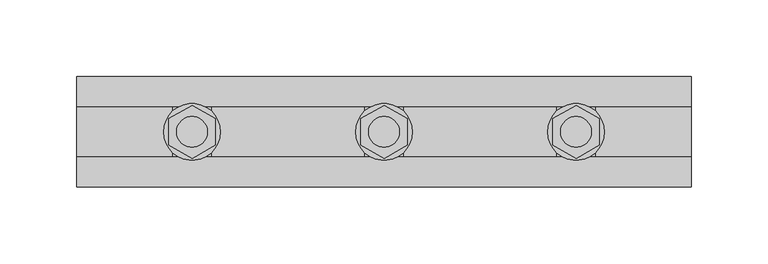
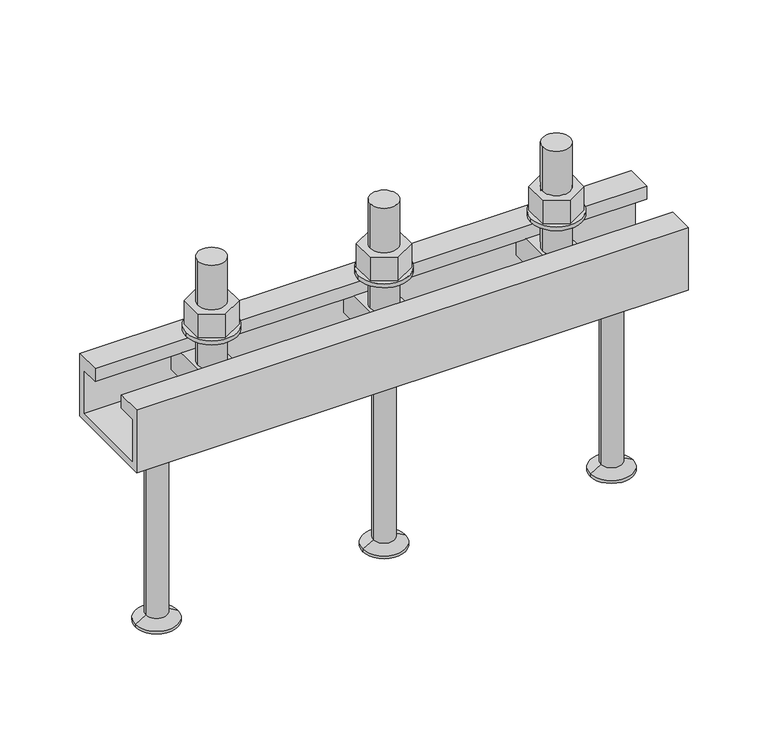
"""IFC4 building model written with IfcOpenShell, lengths in millimetres: fastener geometry, JTA-W JORDAHL® AnchorChannels : JTA-W L=400 mm."""

import ifcopenshell
import ifcopenshell.guid

model = None  # the IFC model being written
_history = None  # IfcOwnerHistory: only IFC2X3 demands one
_inside = {}  # id of a spatial element -> (the spatial element, [elements in it])
_under = {}  # id of a project, library or spatial element -> (it, [spatial elements below it])
_declared = {}  # id of a project -> (the project, [libraries it declares])
_typed = {}  # id of a type object -> (the type object, [elements of that type])
_made_of = {}  # id of a material, layer set ... -> (it, [elements and type objects made of it])


def new_model(schema):
    """Start an empty IFC model of exactly this schema.

    Asked for "IFC4X3", IfcOpenShell would pick the latest addendum, in which some entities
    have other attributes; the version numbers below select the first issue.
    IFC2X3 requires an IfcOwnerHistory on every rooted entity: one is made here for all.
    """
    global model, _history
    if schema == "IFC4X3":
        model = ifcopenshell.file(schema_version=(4, 3, 0, 0))
    else:
        model = ifcopenshell.file(schema=schema)
    _inside.clear()
    _under.clear()
    _declared.clear()
    _typed.clear()
    _made_of.clear()
    _history = None
    if model.schema == "IFC2X3":
        org = make("IfcOrganization", Name="unknown")
        user = make(
            "IfcPersonAndOrganization",
            ThePerson=make("IfcPerson", FamilyName="unknown"),
            TheOrganization=org,
        )
        app = make(
            "IfcApplication",
            ApplicationDeveloper=org,
            Version="unknown",
            ApplicationFullName="unknown",
            ApplicationIdentifier="unknown",
        )
        _history = make(
            "IfcOwnerHistory",
            OwningUser=user,
            OwningApplication=app,
            ChangeAction="ADDED",
            CreationDate=0,
        )
    return model


def make(cls, **values):
    """One entity of the class cls with the attributes given. An attribute that is None is left unset."""
    return model.create_entity(
        cls, **{name: value for name, value in values.items() if value is not None}
    )


def rooted(cls, **values):
    """An entity with a GlobalId (a new one), such as an element, a storey or a relation."""
    return make(cls, GlobalId=ifcopenshell.guid.new(), OwnerHistory=_history, **values)


def si_unit(unit_type, name, prefix=None):
    """IfcSIUnit, for example si_unit("LENGTHUNIT", "METRE", prefix="MILLI")."""
    return make("IfcSIUnit", UnitType=unit_type, Prefix=prefix, Name=name)


def assignment(units):
    """IfcUnitAssignment: the units of a project."""
    return None if units is None else make("IfcUnitAssignment", Units=units)


def point(xyz):
    """IfcCartesianPoint."""
    return None if xyz is None else make("IfcCartesianPoint", Coordinates=xyz)


def direction(xyz):
    """IfcDirection."""
    return None if xyz is None else make("IfcDirection", DirectionRatios=xyz)


def frame(location, z_axis=None, x_axis=None):
    """IfcAxis2Placement3D, a coordinate frame: its origin and axes. An axis left out is left unset."""
    return make(
        "IfcAxis2Placement3D",
        Location=point(location),
        Axis=direction(z_axis),
        RefDirection=direction(x_axis),
    )


def frame_2d(location, x_axis=None):
    """IfcAxis2Placement2D, a coordinate frame in the plane: its origin and x axis."""
    return make(
        "IfcAxis2Placement2D", Location=point(location), RefDirection=direction(x_axis)
    )


def origin():
    """The frame at (0, 0, 0) with its axes left unset."""
    return frame((0.0, 0.0, 0.0))


def place(relative_to, where):
    """IfcLocalPlacement: puts the frame where relative to a parent placement (None: the world)."""
    return make(
        "IfcLocalPlacement", PlacementRelTo=relative_to, RelativePlacement=where
    )


def context(
    kind, dimensions, precision=None, world=None, true_north=None, identifier=None
):
    """IfcGeometricRepresentationContext, for example the 3D "Model" context."""
    return make(
        "IfcGeometricRepresentationContext",
        ContextIdentifier=identifier,
        ContextType=kind,
        CoordinateSpaceDimension=dimensions,
        Precision=precision,
        WorldCoordinateSystem=world,
        TrueNorth=true_north,
    )


def project(units=None, contexts=None):
    """IfcProject with its units and contexts."""
    return rooted(
        "IfcProject",
        Name="project",
        RepresentationContexts=contexts,
        UnitsInContext=assignment(units),
    )


def spatial(cls, under=None, at=None, **own):
    """A site, building, storey or space (cls), placed at a placement, below another one or the project."""
    s = rooted(cls, ObjectPlacement=at, **own)
    if under is not None:
        _under.setdefault(under.id(), (under, []))[1].append(s)
    return s


def polyline(points):
    """IfcPolyline through the points."""
    return make("IfcPolyline", Points=[point(p) for p in points])


def circle_curve(where, radius):
    """IfcCircle in the frame where."""
    return make("IfcCircle", Position=where, Radius=radius)


def trimmed(basis, trim1, trim2, sense, master):
    """IfcTrimmedCurve: the piece of a basis curve between two trims."""
    return make(
        "IfcTrimmedCurve",
        BasisCurve=basis,
        Trim1=trim1,
        Trim2=trim2,
        SenseAgreement=sense,
        MasterRepresentation=master,
    )


def segment(curve, same_sense, transition):
    """IfcCompositeCurveSegment."""
    return make(
        "IfcCompositeCurveSegment",
        Transition=transition,
        SameSense=same_sense,
        ParentCurve=curve,
    )


def composite_curve(segments, self_intersect=None):
    """IfcCompositeCurve: segments joined end to end."""
    return make("IfcCompositeCurve", Segments=segments, SelfIntersect=self_intersect)


def outline(outer, holes=None, kind="AREA"):
    """IfcArbitraryClosedProfileDef: a profile drawn as a closed curve; with holes, ...WithVoids."""
    if holes is None:
        return make("IfcArbitraryClosedProfileDef", ProfileType=kind, OuterCurve=outer)
    return make(
        "IfcArbitraryProfileDefWithVoids",
        ProfileType=kind,
        OuterCurve=outer,
        InnerCurves=holes,
    )


def extrude(swept, where, along, depth):
    """IfcExtrudedAreaSolid: the profile swept, set in the frame where, extruded along a direction by depth."""
    return make(
        "IfcExtrudedAreaSolid",
        SweptArea=swept,
        Position=where,
        ExtrudedDirection=direction(along),
        Depth=depth,
    )


def shape(context_of_items, identifier, shape_type, items):
    """IfcShapeRepresentation: the items that make up one representation, for example the "Body"."""
    return make(
        "IfcShapeRepresentation",
        ContextOfItems=context_of_items,
        RepresentationIdentifier=identifier,
        RepresentationType=shape_type,
        Items=items,
    )


def source(mapping_origin, context_of_items, identifier, shape_type, items):
    """IfcRepresentationMap: a shape defined once, which mapped items show again and again."""
    return make(
        "IfcRepresentationMap",
        MappingOrigin=mapping_origin,
        MappedRepresentation=shape(context_of_items, identifier, shape_type, items),
    )


def transform(
    local_origin,
    x_axis=None,
    y_axis=None,
    z_axis=None,
    scale=None,
    scale2=None,
    scale3=None,
    uniform=True,
):
    """IfcCartesianTransformationOperator3D, or its non-uniform kind. x_axis, y_axis, z_axis: its Axis1, 2, 3."""
    if uniform:
        return make(
            "IfcCartesianTransformationOperator3D",
            Axis1=direction(x_axis),
            Axis2=direction(y_axis),
            LocalOrigin=point(local_origin),
            Scale=scale,
            Axis3=direction(z_axis),
        )
    return make(
        "IfcCartesianTransformationOperator3DnonUniform",
        Axis1=direction(x_axis),
        Axis2=direction(y_axis),
        LocalOrigin=point(local_origin),
        Scale=scale,
        Axis3=direction(z_axis),
        Scale2=scale2,
        Scale3=scale3,
    )


def mapped(mapping_source, mapping_target):
    """IfcMappedItem: shows the shape of a source again, moved by a transform."""
    return make(
        "IfcMappedItem", MappingSource=mapping_source, MappingTarget=mapping_target
    )


def made_of(thing, what):
    """Note that an element or type object is made of a material, layer set ...; save() writes the relation."""
    if what is not None:
        _made_of.setdefault(what.id(), (what, []))[1].append(thing)
    return thing


def element(
    cls,
    number,
    at=None,
    inside=None,
    cuts=None,
    type_object=None,
    material=None,
    context=None,
    identifier="Body",
    shape_type=None,
    held_by="IfcProductDefinitionShape",
    body=None,
    shapes=None,
    **own,
):
    """One element of the class cls, such as IfcWall. Its Tag is "e" and its number.

    at: its placement. inside: the storey or other place that contains it. cuts: it is an
    opening in that element (IfcRelVoidsElement). A single representation is given by context,
    identifier, shape_type and body (its items); several are given by shapes. held_by: the class
    of the entity that holds the representations. save() writes the other relations.
    """
    e = rooted(cls, Tag="e%d" % number, ObjectPlacement=at, **own)
    if body is not None:
        shapes = [shape(context, identifier, shape_type, body)]
    if shapes is not None:
        e.Representation = make(held_by, Representations=shapes)
    if inside is not None:
        _inside.setdefault(inside.id(), (inside, []))[1].append(e)
    if cuts is not None:
        rooted(
            "IfcRelVoidsElement", RelatingBuildingElement=cuts, RelatedOpeningElement=e
        )
    if type_object is not None:
        _typed.setdefault(type_object.id(), (type_object, []))[1].append(e)
    return made_of(e, material)


def aggregate(whole, parts):
    """IfcRelAggregates: a whole, such as a stair, and the parts it consists of."""
    return rooted("IfcRelAggregates", RelatingObject=whole, RelatedObjects=parts)


def save(model, path):
    """Write the relations noted so far, then the file.

    IfcRelAggregates (storeys below a building ...), IfcRelContainedInSpatialStructure (elements
    in a storey), IfcRelDefinesByType, IfcRelAssociatesMaterial and IfcRelDeclares: one each for
    every whole, place, type object, material and project.
    """
    for whole, parts in _under.values():
        aggregate(whole, parts)
    for where, things in _inside.values():
        rooted(
            "IfcRelContainedInSpatialStructure",
            RelatedElements=things,
            RelatingStructure=where,
        )
    for kind, things in _typed.values():
        rooted("IfcRelDefinesByType", RelatedObjects=things, RelatingType=kind)
    for what, things in _made_of.values():
        rooted("IfcRelAssociatesMaterial", RelatedObjects=things, RelatingMaterial=what)
    for by, libraries in _declared.values():
        rooted("IfcRelDeclares", RelatingContext=by, RelatedDefinitions=libraries)
    model.write(path)


def plane_surface(at):
    """IfcPlane: the flat surface through the origin of the frame at, square to its z axis."""
    return make("IfcPlane", Position=at)


def cylinder_surface(at, radius):
    """IfcCylindricalSurface: all points at the distance radius from the z axis of the frame at."""
    return make("IfcCylindricalSurface", Position=at, Radius=radius)


def revolved_surface(curve, axis_point, axis_direction):
    """IfcSurfaceOfRevolution: the curve turned about the line through axis_point along axis_direction."""
    return make(
        "IfcSurfaceOfRevolution",
        SweptCurve=make("IfcArbitraryOpenProfileDef", ProfileType="CURVE", Curve=curve),
        AxisPosition=make("IfcAxis1Placement", Location=point(axis_point), Axis=direction(axis_direction)),
    )


def advanced_brep(points, edges, surfaces, faces):
    """IfcAdvancedBrep: a solid bounded by faces that lie on surfaces and meet in shared edges.

    An edge is (start, end): straight between two places in points (the first is 0);
    or (start, end, curve); or (start, end, curve, False) where it runs against its curve.
    A face is (place in surfaces, loops), or (place, loops, False) where it looks against
    its surface's normal. A loop lists edges by number (the first is 1), with a minus sign
    where the edge is run from its end to its start. The first loop is the outer one.
    """
    corners = [point(p) for p in points]
    vertices = [make("IfcVertexPoint", VertexGeometry=c) for c in corners]
    made = []
    for start, end, *more in edges:
        made.append(
            make(
                "IfcEdgeCurve",
                EdgeStart=vertices[start],
                EdgeEnd=vertices[end],
                EdgeGeometry=more[0] if more else make("IfcPolyline", Points=[corners[start], corners[end]]),
                SameSense=more[1] if len(more) > 1 else True,
            )
        )
    hull = []
    for where, loops, *sense in faces:
        bounds = []
        for j, loop in enumerate(loops):
            ring = [make("IfcOrientedEdge", EdgeElement=made[abs(k) - 1], Orientation=k > 0) for k in loop]
            bounds.append(
                make(
                    "IfcFaceOuterBound" if j == 0 else "IfcFaceBound",
                    Bound=make("IfcEdgeLoop", EdgeList=ring),
                    Orientation=True,
                )
            )
        hull.append(make("IfcAdvancedFace", Bounds=bounds, FaceSurface=surfaces[where], SameSense=sense[0] if sense else True))
    return make("IfcAdvancedBrep", Outer=make("IfcClosedShell", CfsFaces=hull))


def fastener_04aeaee6(model_context):
    return source(origin(), model_context, "Body", "SolidModel", [
        extrude(outline(polyline([(200.0, 17.3205081), (215.0, 8.660254), (215.0, -8.660254), (200.0, -17.3205081), (185.0, -8.660254), (185.0, 8.660254), (200.0, 17.3205081)]), holes=[composite_curve([segment(trimmed(circle_curve(frame_2d((200.0, 0.0)), 10.0), [point((190.0, 0.0))], [point((210.0, 0.0))], True, "CARTESIAN"), True, "CONTINUOUS"), segment(trimmed(circle_curve(frame_2d((200.0, 0.0)), 10.0), [point((210.0, 0.0))], [point((190.0, 0.0))], True, "CARTESIAN"), True, "CONTINUOUS")], self_intersect=False)]), frame((0.0, 0.0, 18.0), z_axis=(0.0, 0.0, 1.0), x_axis=(1.0, 0.0, 0.0)), (0.0, 0.0, 1.0), 18.0),
        extrude(outline(composite_curve([segment(trimmed(circle_curve(frame_2d((200.0, 0.0)), 18.5), [point((181.5, 0.0))], [point((218.5, 0.0))], False, "CARTESIAN"), True, "CONTINUOUS"), segment(trimmed(circle_curve(frame_2d((200.0, 0.0)), 18.5), [point((218.5, 0.0))], [point((181.5, 0.0))], False, "CARTESIAN"), True, "CONTINUOUS")], self_intersect=False), holes=[composite_curve([segment(trimmed(circle_curve(frame_2d((200.0, 0.0)), 10.5), [point((189.5, 0.0))], [point((210.5, 0.0))], True, "CARTESIAN"), True, "CONTINUOUS"), segment(trimmed(circle_curve(frame_2d((200.0, 0.0)), 10.5), [point((210.5, 0.0))], [point((189.5, 0.0))], True, "CARTESIAN"), True, "CONTINUOUS")], self_intersect=False)]), frame((0.0, 0.0, 15.0), z_axis=(0.0, 0.0, 1.0), x_axis=(1.0, 0.0, 0.0)), (0.0, 0.0, 1.0), 3.0),
        advanced_brep(
        [(212.5, 29.0, -10.0), (212.5, -29.0, -10.0), (212.5, -29.0, -30.0), (212.5, 29.0, -30.0), (187.5, 29.0, -10.0), (187.5, 29.0, -30.0), (187.5, -29.0, -30.0), (187.5, -29.0, -10.0), (210.0, 0.0, -10.0), (190.0, 0.0, -10.0), (190.0, 0.0, 70.0), (210.0, 0.0, 70.0)],
        [
            (0, 1),
            (1, 2),
            (2, 3),
            (3, 0),
            (4, 5),
            (5, 6),
            (6, 7),
            (7, 4),
            (0, 4),
            (7, 1),
            (8, 9, circle_curve(frame((200.0, 0.0, -10.0), z_axis=(0.0, 0.0, -1.0), x_axis=(1.0, 0.0, 0.0)), 10.0)),
            (9, 8, circle_curve(frame((200.0, 0.0, -10.0), z_axis=(0.0, 0.0, -1.0), x_axis=(1.0, 0.0, 0.0)), 10.0)),
            (6, 2),
            (5, 3),
            (10, 11, circle_curve(frame((200.0, 0.0, 70.0), z_axis=(0.0, 0.0, 1.0), x_axis=(1.0, 0.0, 0.0)), 10.0)),
            (11, 10, circle_curve(frame((200.0, 0.0, 70.0), z_axis=(0.0, 0.0, 1.0), x_axis=(1.0, 0.0, 0.0)), 10.0)),
            (10, 9),
            (8, 11),
        ],
        [
            plane_surface(frame((212.5, -29.0, -10.0), z_axis=(1.0, 0.0, 0.0), x_axis=(0.0, -1.0, 0.0))),
            plane_surface(frame((187.5, -29.0, -10.0), z_axis=(-1.0, 0.0, 0.0), x_axis=(0.0, 1.0, 0.0))),
            plane_surface(frame((212.5, 29.0, -10.0), z_axis=(0.0, 0.0, 1.0), x_axis=(-1.0, 0.0, 0.0))),
            plane_surface(frame((212.5, -29.0, -10.0), z_axis=(0.0, -1.0, 0.0), x_axis=(-1.0, 0.0, 0.0))),
            plane_surface(frame((212.5, -29.0, -30.0), z_axis=(0.0, 0.0, -1.0), x_axis=(-1.0, 0.0, 0.0))),
            plane_surface(frame((212.5, 29.0, -30.0), z_axis=(0.0, 1.0, 0.0), x_axis=(-1.0, 0.0, 0.0))),
            plane_surface(frame((210.0, 0.0, 70.0), z_axis=(0.0, 0.0, 1.0), x_axis=(0.0, 1.0, 0.0))),
            cylinder_surface(frame((200.0, 0.0, -10.0), z_axis=(0.0, 0.0, 1.0), x_axis=(1.0, 0.0, 0.0)), 10.0),
        ],
        [
            (0, [[1, 2, 3, 4]]),
            (1, [[5, 6, 7, 8]]),
            (2, [[-1, 9, -8, 10], [11, 12]]),
            (3, [[-2, -10, -7, 13]]),
            (4, [[-3, -13, -6, 14]]),
            (5, [[-4, -14, -5, -9]]),
            (6, [[15, 16]]),
            (7, [[-15, 17, -11, 18]]),
            (7, [[-16, -18, -12, -17]]),
        ],
    ),
        advanced_brep(
        [(200.0, 0.0, -48.0), (223.0, 0.0, -48.0), (177.0, 0.0, -48.0), (184.5, 0.0, -195.0), (215.5, 0.0, -195.0), (200.0, 0.0, -195.0), (184.5, 0.0, -193.0), (215.5, 0.0, -193.0), (192.2, 0.0, -188.5544029), (207.8, 0.0, -188.5544029), (192.2, 0.0, -52.0), (207.8, 0.0, -52.0)],
        [
            (0, 1),
            (1, 2, circle_curve(frame((200.0, 0.0, -48.0), z_axis=(0.0, 0.0, 1.0), x_axis=(1.0, 0.0, 0.0)), 23.0)),
            (2, 0),
            (2, 1, circle_curve(frame((200.0, 0.0, -48.0), z_axis=(0.0, 0.0, 1.0), x_axis=(1.0, 0.0, 0.0)), 23.0)),
            (3, 4, circle_curve(frame((200.0, 0.0, -195.0), z_axis=(0.0, 0.0, -1.0), x_axis=(1.0, 0.0, 0.0)), 15.5)),
            (4, 5),
            (5, 3),
            (4, 3, circle_curve(frame((200.0, 0.0, -195.0), z_axis=(0.0, 0.0, -1.0), x_axis=(1.0, 0.0, 0.0)), 15.5)),
            (6, 7, circle_curve(frame((200.0, 0.0, -193.0), z_axis=(0.0, 0.0, -1.0), x_axis=(1.0, 0.0, 0.0)), 15.5)),
            (7, 4),
            (3, 6),
            (7, 6, circle_curve(frame((200.0, 0.0, -193.0), z_axis=(0.0, 0.0, -1.0), x_axis=(1.0, 0.0, 0.0)), 15.5)),
            (8, 9, circle_curve(frame((200.0, 0.0, -188.5544029), z_axis=(0.0, 0.0, -1.0), x_axis=(1.0, 0.0, 0.0)), 7.8)),
            (9, 7),
            (6, 8),
            (9, 8, circle_curve(frame((200.0, 0.0, -188.5544029), z_axis=(0.0, 0.0, -1.0), x_axis=(1.0, 0.0, 0.0)), 7.8)),
            (10, 11, circle_curve(frame((200.0, 0.0, -52.0), z_axis=(0.0, 0.0, -1.0), x_axis=(1.0, 0.0, 0.0)), 7.8)),
            (11, 9),
            (8, 10),
            (11, 10, circle_curve(frame((200.0, 0.0, -52.0), z_axis=(0.0, 0.0, -1.0), x_axis=(1.0, 0.0, 0.0)), 7.8)),
            (1, 11),
            (10, 2),
        ],
        [
            plane_surface(frame((200.0, 0.0, -48.0), z_axis=(0.0, 0.0, 1.0), x_axis=(1.0, 0.0, 0.0))),
            plane_surface(frame((200.0, 0.0, -195.0), z_axis=(0.0, 0.0, -1.0), x_axis=(1.0, 0.0, 0.0))),
            cylinder_surface(frame((200.0, 0.0, 2361.3150031), z_axis=(0.0, 0.0, 1.0), x_axis=(1.0, 0.0, 0.0)), 15.5),
            revolved_surface(polyline([(215.5, 0.0, -193.0), (207.8, 0.0, -188.5544029)]), (200.0, 0.0, 2361.3150031), (0.0, 0.0, 1.0)),
            cylinder_surface(frame((200.0, 0.0, 2361.3150031), z_axis=(0.0, 0.0, 1.0), x_axis=(1.0, 0.0, 0.0)), 7.8),
            revolved_surface(polyline([(207.8, 0.0, -52.0), (223.0, 0.0, -48.0)]), (200.0, 0.0, 2361.3150031), (0.0, 0.0, 1.0)),
        ],
        [
            (0, [[1, 2, 3]]),
            (0, [[-3, 4, -1]]),
            (1, [[5, 6, 7]]),
            (1, [[8, -7, -6]]),
            (2, [[9, 10, -5, 11]]),
            (2, [[12, -11, -8, -10]]),
            (3, [[13, 14, -9, 15]]),
            (3, [[16, -15, -12, -14]]),
            (4, [[17, 18, -13, 19]]),
            (4, [[20, -19, -16, -18]]),
            (5, [[-2, 21, -17, 22]]),
            (5, [[-4, -22, -20, -21]]),
        ],
    ),
        extrude(outline(polyline([(325.0, 17.3205081), (340.0, 8.660254), (340.0, -8.660254), (325.0, -17.3205081), (310.0, -8.660254), (310.0, 8.660254), (325.0, 17.3205081)]), holes=[composite_curve([segment(trimmed(circle_curve(frame_2d((325.0, 0.0)), 10.0), [point((315.0, 0.0))], [point((335.0, 0.0))], True, "CARTESIAN"), True, "CONTINUOUS"), segment(trimmed(circle_curve(frame_2d((325.0, 0.0)), 10.0), [point((335.0, 0.0))], [point((315.0, 0.0))], True, "CARTESIAN"), True, "CONTINUOUS")], self_intersect=False)]), frame((0.0, 0.0, 18.0), z_axis=(0.0, 0.0, 1.0), x_axis=(1.0, 0.0, 0.0)), (0.0, 0.0, 1.0), 18.0),
        extrude(outline(composite_curve([segment(trimmed(circle_curve(frame_2d((325.0, 0.0)), 18.5), [point((306.5, 0.0))], [point((343.5, 0.0))], False, "CARTESIAN"), True, "CONTINUOUS"), segment(trimmed(circle_curve(frame_2d((325.0, 0.0)), 18.5), [point((343.5, 0.0))], [point((306.5, 0.0))], False, "CARTESIAN"), True, "CONTINUOUS")], self_intersect=False), holes=[composite_curve([segment(trimmed(circle_curve(frame_2d((325.0, 0.0)), 10.5), [point((314.5, 0.0))], [point((335.5, 0.0))], True, "CARTESIAN"), True, "CONTINUOUS"), segment(trimmed(circle_curve(frame_2d((325.0, 0.0)), 10.5), [point((335.5, 0.0))], [point((314.5, 0.0))], True, "CARTESIAN"), True, "CONTINUOUS")], self_intersect=False)]), frame((0.0, 0.0, 15.0), z_axis=(0.0, 0.0, 1.0), x_axis=(1.0, 0.0, 0.0)), (0.0, 0.0, 1.0), 3.0),
        extrude(outline(polyline([(75.0, 17.3205081), (90.0, 8.660254), (90.0, -8.660254), (75.0, -17.3205081), (60.0, -8.660254), (60.0, 8.660254), (75.0, 17.3205081)]), holes=[composite_curve([segment(trimmed(circle_curve(frame_2d((75.0, 0.0)), 10.0), [point((65.0, 0.0))], [point((85.0, 0.0))], True, "CARTESIAN"), True, "CONTINUOUS"), segment(trimmed(circle_curve(frame_2d((75.0, 0.0)), 10.0), [point((85.0, 0.0))], [point((65.0, 0.0))], True, "CARTESIAN"), True, "CONTINUOUS")], self_intersect=False)]), frame((0.0, 0.0, 18.0), z_axis=(0.0, 0.0, 1.0), x_axis=(1.0, 0.0, 0.0)), (0.0, 0.0, 1.0), 18.0),
        extrude(outline(composite_curve([segment(trimmed(circle_curve(frame_2d((75.0, 0.0)), 18.5), [point((56.5, 0.0))], [point((93.5, 0.0))], False, "CARTESIAN"), True, "CONTINUOUS"), segment(trimmed(circle_curve(frame_2d((75.0, 0.0)), 18.5), [point((93.5, 0.0))], [point((56.5, 0.0))], False, "CARTESIAN"), True, "CONTINUOUS")], self_intersect=False), holes=[composite_curve([segment(trimmed(circle_curve(frame_2d((75.0, 0.0)), 10.5), [point((64.5, 0.0))], [point((85.5, 0.0))], True, "CARTESIAN"), True, "CONTINUOUS"), segment(trimmed(circle_curve(frame_2d((75.0, 0.0)), 10.5), [point((85.5, 0.0))], [point((64.5, 0.0))], True, "CARTESIAN"), True, "CONTINUOUS")], self_intersect=False)]), frame((0.0, 0.0, 15.0), z_axis=(0.0, 0.0, 1.0), x_axis=(1.0, 0.0, 0.0)), (0.0, 0.0, 1.0), 3.0),
        advanced_brep(
        [(337.5, 29.0, -10.0), (337.5, -29.0, -10.0), (337.5, -29.0, -30.0), (337.5, 29.0, -30.0), (312.5, 29.0, -10.0), (312.5, 29.0, -30.0), (312.5, -29.0, -30.0), (312.5, -29.0, -10.0), (335.0, 0.0, -10.0), (315.0, 0.0, -10.0), (315.0, 0.0, 70.0), (335.0, 0.0, 70.0)],
        [
            (0, 1),
            (1, 2),
            (2, 3),
            (3, 0),
            (4, 5),
            (5, 6),
            (6, 7),
            (7, 4),
            (0, 4),
            (7, 1),
            (8, 9, circle_curve(frame((325.0, 0.0, -10.0), z_axis=(0.0, 0.0, -1.0), x_axis=(1.0, 0.0, 0.0)), 10.0)),
            (9, 8, circle_curve(frame((325.0, 0.0, -10.0), z_axis=(0.0, 0.0, -1.0), x_axis=(1.0, 0.0, 0.0)), 10.0)),
            (6, 2),
            (5, 3),
            (10, 11, circle_curve(frame((325.0, 0.0, 70.0), z_axis=(0.0, 0.0, 1.0), x_axis=(1.0, 0.0, 0.0)), 10.0)),
            (11, 10, circle_curve(frame((325.0, 0.0, 70.0), z_axis=(0.0, 0.0, 1.0), x_axis=(1.0, 0.0, 0.0)), 10.0)),
            (10, 9),
            (8, 11),
        ],
        [
            plane_surface(frame((337.5, -29.0, -10.0), z_axis=(1.0, 0.0, 0.0), x_axis=(0.0, -1.0, 0.0))),
            plane_surface(frame((312.5, -29.0, -10.0), z_axis=(-1.0, 0.0, 0.0), x_axis=(0.0, 1.0, 0.0))),
            plane_surface(frame((337.5, 29.0, -10.0), z_axis=(0.0, 0.0, 1.0), x_axis=(-1.0, 0.0, 0.0))),
            plane_surface(frame((337.5, -29.0, -10.0), z_axis=(0.0, -1.0, 0.0), x_axis=(-1.0, 0.0, 0.0))),
            plane_surface(frame((337.5, -29.0, -30.0), z_axis=(0.0, 0.0, -1.0), x_axis=(-1.0, 0.0, 0.0))),
            plane_surface(frame((337.5, 29.0, -30.0), z_axis=(0.0, 1.0, 0.0), x_axis=(-1.0, 0.0, 0.0))),
            plane_surface(frame((335.0, 0.0, 70.0), z_axis=(0.0, 0.0, 1.0), x_axis=(0.0, 1.0, 0.0))),
            cylinder_surface(frame((325.0, 0.0, -10.0), z_axis=(0.0, 0.0, 1.0), x_axis=(1.0, 0.0, 0.0)), 10.0),
        ],
        [
            (0, [[1, 2, 3, 4]]),
            (1, [[5, 6, 7, 8]]),
            (2, [[-1, 9, -8, 10], [11, 12]]),
            (3, [[-2, -10, -7, 13]]),
            (4, [[-3, -13, -6, 14]]),
            (5, [[-4, -14, -5, -9]]),
            (6, [[15, 16]]),
            (7, [[-15, 17, -11, 18]]),
            (7, [[-16, -18, -12, -17]]),
        ],
    ),
        advanced_brep(
        [(87.5, 29.0, -10.0), (87.5, -29.0, -10.0), (87.5, -29.0, -30.0), (87.5, 29.0, -30.0), (62.5, 29.0, -10.0), (62.5, 29.0, -30.0), (62.5, -29.0, -30.0), (62.5, -29.0, -10.0), (85.0, 0.0, -10.0), (65.0, 0.0, -10.0), (65.0, 0.0, 70.0), (85.0, 0.0, 70.0)],
        [
            (0, 1),
            (1, 2),
            (2, 3),
            (3, 0),
            (4, 5),
            (5, 6),
            (6, 7),
            (7, 4),
            (0, 4),
            (7, 1),
            (8, 9, circle_curve(frame((75.0, 0.0, -10.0), z_axis=(0.0, 0.0, -1.0), x_axis=(1.0, 0.0, 0.0)), 10.0)),
            (9, 8, circle_curve(frame((75.0, 0.0, -10.0), z_axis=(0.0, 0.0, -1.0), x_axis=(1.0, 0.0, 0.0)), 10.0)),
            (6, 2),
            (5, 3),
            (10, 11, circle_curve(frame((75.0, 0.0, 70.0), z_axis=(0.0, 0.0, 1.0), x_axis=(1.0, 0.0, 0.0)), 10.0)),
            (11, 10, circle_curve(frame((75.0, 0.0, 70.0), z_axis=(0.0, 0.0, 1.0), x_axis=(1.0, 0.0, 0.0)), 10.0)),
            (10, 9),
            (8, 11),
        ],
        [
            plane_surface(frame((87.5, -29.0, -10.0), z_axis=(1.0, 0.0, 0.0), x_axis=(0.0, -1.0, 0.0))),
            plane_surface(frame((62.5, -29.0, -10.0), z_axis=(-1.0, 0.0, 0.0), x_axis=(0.0, 1.0, 0.0))),
            plane_surface(frame((87.5, 29.0, -10.0), z_axis=(0.0, 0.0, 1.0), x_axis=(-1.0, 0.0, 0.0))),
            plane_surface(frame((87.5, -29.0, -10.0), z_axis=(0.0, -1.0, 0.0), x_axis=(-1.0, 0.0, 0.0))),
            plane_surface(frame((87.5, -29.0, -30.0), z_axis=(0.0, 0.0, -1.0), x_axis=(-1.0, 0.0, 0.0))),
            plane_surface(frame((87.5, 29.0, -30.0), z_axis=(0.0, 1.0, 0.0), x_axis=(-1.0, 0.0, 0.0))),
            plane_surface(frame((85.0, 0.0, 70.0), z_axis=(0.0, 0.0, 1.0), x_axis=(0.0, 1.0, 0.0))),
            cylinder_surface(frame((75.0, 0.0, -10.0), z_axis=(0.0, 0.0, 1.0), x_axis=(1.0, 0.0, 0.0)), 10.0),
        ],
        [
            (0, [[1, 2, 3, 4]]),
            (1, [[5, 6, 7, 8]]),
            (2, [[-1, 9, -8, 10], [11, 12]]),
            (3, [[-2, -10, -7, 13]]),
            (4, [[-3, -13, -6, 14]]),
            (5, [[-4, -14, -5, -9]]),
            (6, [[15, 16]]),
            (7, [[-15, 17, -11, 18]]),
            (7, [[-16, -18, -12, -17]]),
        ],
    ),
        advanced_brep(
        [(365.0, 0.0, -48.0), (388.0, 0.0, -48.0), (342.0, 0.0, -48.0), (349.5, 0.0, -195.0), (380.5, 0.0, -195.0), (365.0, 0.0, -195.0), (349.5, 0.0, -193.0), (380.5, 0.0, -193.0), (357.2, 0.0, -188.5544029), (372.8, 0.0, -188.5544029), (357.2, 0.0, -52.0), (372.8, 0.0, -52.0)],
        [
            (0, 1),
            (1, 2, circle_curve(frame((365.0, 0.0, -48.0), z_axis=(0.0, 0.0, 1.0), x_axis=(1.0, 0.0, 0.0)), 23.0)),
            (2, 0),
            (2, 1, circle_curve(frame((365.0, 0.0, -48.0), z_axis=(0.0, 0.0, 1.0), x_axis=(1.0, 0.0, 0.0)), 23.0)),
            (3, 4, circle_curve(frame((365.0, 0.0, -195.0), z_axis=(0.0, 0.0, -1.0), x_axis=(1.0, 0.0, 0.0)), 15.5)),
            (4, 5),
            (5, 3),
            (4, 3, circle_curve(frame((365.0, 0.0, -195.0), z_axis=(0.0, 0.0, -1.0), x_axis=(1.0, 0.0, 0.0)), 15.5)),
            (6, 7, circle_curve(frame((365.0, 0.0, -193.0), z_axis=(0.0, 0.0, -1.0), x_axis=(1.0, 0.0, 0.0)), 15.5)),
            (7, 4),
            (3, 6),
            (7, 6, circle_curve(frame((365.0, 0.0, -193.0), z_axis=(0.0, 0.0, -1.0), x_axis=(1.0, 0.0, 0.0)), 15.5)),
            (8, 9, circle_curve(frame((365.0, 0.0, -188.5544029), z_axis=(0.0, 0.0, -1.0), x_axis=(1.0, 0.0, 0.0)), 7.8)),
            (9, 7),
            (6, 8),
            (9, 8, circle_curve(frame((365.0, 0.0, -188.5544029), z_axis=(0.0, 0.0, -1.0), x_axis=(1.0, 0.0, 0.0)), 7.8)),
            (10, 11, circle_curve(frame((365.0, 0.0, -52.0), z_axis=(0.0, 0.0, -1.0), x_axis=(1.0, 0.0, 0.0)), 7.8)),
            (11, 9),
            (8, 10),
            (11, 10, circle_curve(frame((365.0, 0.0, -52.0), z_axis=(0.0, 0.0, -1.0), x_axis=(1.0, 0.0, 0.0)), 7.8)),
            (1, 11),
            (10, 2),
        ],
        [
            plane_surface(frame((365.0, 0.0, -48.0), z_axis=(0.0, 0.0, 1.0), x_axis=(1.0, 0.0, 0.0))),
            plane_surface(frame((365.0, 0.0, -195.0), z_axis=(0.0, 0.0, -1.0), x_axis=(1.0, 0.0, 0.0))),
            cylinder_surface(frame((365.0, 0.0, 2361.3150031), z_axis=(0.0, 0.0, 1.0), x_axis=(1.0, 0.0, 0.0)), 15.5),
            revolved_surface(polyline([(380.5, 0.0, -193.0), (372.8, 0.0, -188.5544029)]), (365.0, 0.0, 2361.3150031), (0.0, 0.0, 1.0)),
            cylinder_surface(frame((365.0, 0.0, 2361.3150031), z_axis=(0.0, 0.0, 1.0), x_axis=(1.0, 0.0, 0.0)), 7.8),
            revolved_surface(polyline([(372.8, 0.0, -52.0), (388.0, 0.0, -48.0)]), (365.0, 0.0, 2361.3150031), (0.0, 0.0, 1.0)),
        ],
        [
            (0, [[1, 2, 3]]),
            (0, [[-3, 4, -1]]),
            (1, [[5, 6, 7]]),
            (1, [[8, -7, -6]]),
            (2, [[9, 10, -5, 11]]),
            (2, [[12, -11, -8, -10]]),
            (3, [[13, 14, -9, 15]]),
            (3, [[16, -15, -12, -14]]),
            (4, [[17, 18, -13, 19]]),
            (4, [[20, -19, -16, -18]]),
            (5, [[-2, 21, -17, 22]]),
            (5, [[-4, -22, -20, -21]]),
        ],
    ),
        advanced_brep(
        [(35.0, 0.0, -48.0), (58.0, 0.0, -48.0), (12.0, 0.0, -48.0), (19.5, 0.0, -195.0), (50.5, 0.0, -195.0), (35.0, 0.0, -195.0), (19.5, 0.0, -193.0), (50.5, 0.0, -193.0), (27.2, 0.0, -188.5544029), (42.8, 0.0, -188.5544029), (27.2, 0.0, -52.0), (42.8, 0.0, -52.0)],
        [
            (0, 1),
            (1, 2, circle_curve(frame((35.0, 0.0, -48.0), z_axis=(0.0, 0.0, 1.0), x_axis=(1.0, 0.0, 0.0)), 23.0)),
            (2, 0),
            (2, 1, circle_curve(frame((35.0, 0.0, -48.0), z_axis=(0.0, 0.0, 1.0), x_axis=(1.0, 0.0, 0.0)), 23.0)),
            (3, 4, circle_curve(frame((35.0, 0.0, -195.0), z_axis=(0.0, 0.0, -1.0), x_axis=(1.0, 0.0, 0.0)), 15.5)),
            (4, 5),
            (5, 3),
            (4, 3, circle_curve(frame((35.0, 0.0, -195.0), z_axis=(0.0, 0.0, -1.0), x_axis=(1.0, 0.0, 0.0)), 15.5)),
            (6, 7, circle_curve(frame((35.0, 0.0, -193.0), z_axis=(0.0, 0.0, -1.0), x_axis=(1.0, 0.0, 0.0)), 15.5)),
            (7, 4),
            (3, 6),
            (7, 6, circle_curve(frame((35.0, 0.0, -193.0), z_axis=(0.0, 0.0, -1.0), x_axis=(1.0, 0.0, 0.0)), 15.5)),
            (8, 9, circle_curve(frame((35.0, 0.0, -188.5544029), z_axis=(0.0, 0.0, -1.0), x_axis=(1.0, 0.0, 0.0)), 7.8)),
            (9, 7),
            (6, 8),
            (9, 8, circle_curve(frame((35.0, 0.0, -188.5544029), z_axis=(0.0, 0.0, -1.0), x_axis=(1.0, 0.0, 0.0)), 7.8)),
            (10, 11, circle_curve(frame((35.0, 0.0, -52.0), z_axis=(0.0, 0.0, -1.0), x_axis=(1.0, 0.0, 0.0)), 7.8)),
            (11, 9),
            (8, 10),
            (11, 10, circle_curve(frame((35.0, 0.0, -52.0), z_axis=(0.0, 0.0, -1.0), x_axis=(1.0, 0.0, 0.0)), 7.8)),
            (1, 11),
            (10, 2),
        ],
        [
            plane_surface(frame((35.0, 0.0, -48.0), z_axis=(0.0, 0.0, 1.0), x_axis=(1.0, 0.0, 0.0))),
            plane_surface(frame((35.0, 0.0, -195.0), z_axis=(0.0, 0.0, -1.0), x_axis=(1.0, 0.0, 0.0))),
            cylinder_surface(frame((35.0, 0.0, 2361.3150031), z_axis=(0.0, 0.0, 1.0), x_axis=(1.0, 0.0, 0.0)), 15.5),
            revolved_surface(polyline([(50.5, 0.0, -193.0), (42.8, 0.0, -188.5544029)]), (35.0, 0.0, 2361.3150031), (0.0, 0.0, 1.0)),
            cylinder_surface(frame((35.0, 0.0, 2361.3150031), z_axis=(0.0, 0.0, 1.0), x_axis=(1.0, 0.0, 0.0)), 7.8),
            revolved_surface(polyline([(42.8, 0.0, -52.0), (58.0, 0.0, -48.0)]), (35.0, 0.0, 2361.3150031), (0.0, 0.0, 1.0)),
        ],
        [
            (0, [[1, 2, 3]]),
            (0, [[-3, 4, -1]]),
            (1, [[5, 6, 7]]),
            (1, [[8, -7, -6]]),
            (2, [[9, 10, -5, 11]]),
            (2, [[12, -11, -8, -10]]),
            (3, [[13, 14, -9, 15]]),
            (3, [[16, -15, -12, -14]]),
            (4, [[17, 18, -13, 19]]),
            (4, [[20, -19, -16, -18]]),
            (5, [[-2, 21, -17, 22]]),
            (5, [[-4, -22, -20, -21]]),
        ],
    ),
        extrude(outline(polyline([(36.0, 0.0), (36.0, -48.0), (-36.0, -48.0), (-36.0, 0.0), (-16.5, 0.0), (-16.5, -10.0), (-31.0, -10.0), (-31.0, -43.0), (31.0, -43.0), (31.0, -10.0), (16.5, -10.0), (16.5, 0.0), (36.0, 0.0)])), frame((0.0, 0.0, 0.0), z_axis=(1.0, 0.0, 0.0), x_axis=(0.0, 1.0, 0.0)), (0.0, 0.0, 1.0), 400.0),
    ])


if __name__ == "__main__":
    model = new_model("IFC4")
    model_context = context("Model", 3, world=origin())
    ifc_project = project(units=[si_unit("LENGTHUNIT", "METRE", prefix="MILLI")], contexts=[model_context])
    site = spatial("IfcSite", under=ifc_project)
    building = spatial("IfcBuilding", under=site)
    placement = place(None, origin())
    fastener_shape = fastener_04aeaee6(model_context)
    element("IfcFastener", 1, ObjectType="JTA-W JORDAHL® AnchorChannels : JTA-W L=400 mm", at=placement, inside=building, context=model_context, shape_type="MappedRepresentation", body=[
        mapped(fastener_shape, transform((0.0, 0.0, 0.0), x_axis=(1.0, 0.0, 0.0), y_axis=(0.0, 1.0, 0.0), z_axis=(0.0, 0.0, 1.0))),
    ])
    save(model, "model.ifc")
